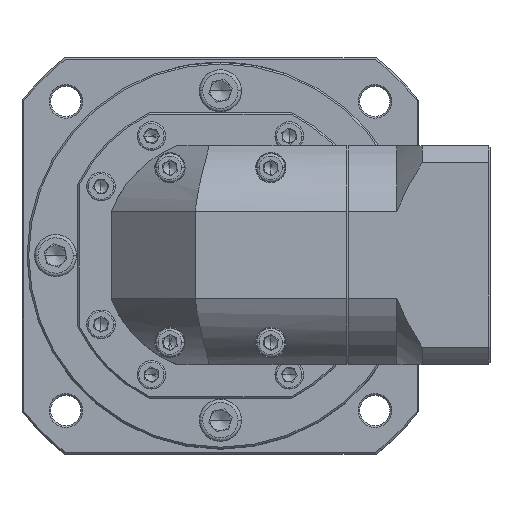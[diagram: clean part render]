
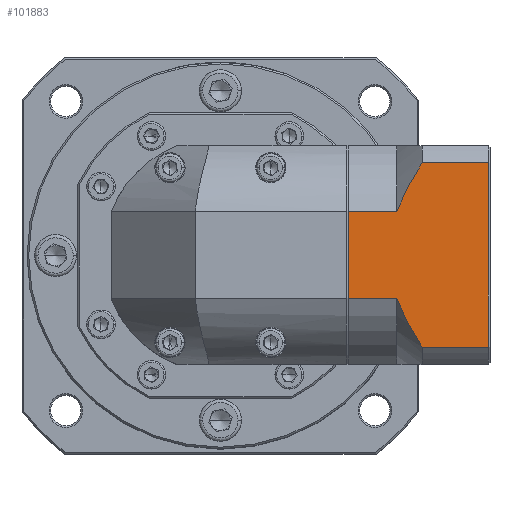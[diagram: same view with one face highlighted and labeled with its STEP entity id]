
A CAD part, top view. The second image highlights one B-rep face of the part: STEP entity #101883.
In plain terms, the highlighted planar face has unit normal (0, 0, 1).
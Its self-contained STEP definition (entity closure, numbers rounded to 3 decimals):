
#883 = VERTEX_POINT ( 'NONE', #20242 ) ;
#3745 = VECTOR ( 'NONE', #32803, 1000. ) ;
#5574 = DIRECTION ( 'NONE',  ( -1., 0., 0. ) ) ;
#5877 = EDGE_CURVE ( 'NONE', #129490, #23683, #75606, .T. ) ;
#7070 = CARTESIAN_POINT ( 'NONE',  ( 127.594, 80.288, 32.511 ) ) ;
#10567 = CARTESIAN_POINT ( 'NONE',  ( 126.935, 117.491, 32.511 ) ) ;
#17886 = CARTESIAN_POINT ( 'NONE',  ( 132.349, 72.125, 32.511 ) ) ;
#18354 = VECTOR ( 'NONE', #5574, 1000. ) ;
#20242 = CARTESIAN_POINT ( 'NONE',  ( 132.349, 126.897, 32.511 ) ) ;
#21464 = CARTESIAN_POINT ( 'NONE',  ( 110.349, 86.521, 32.511 ) ) ;
#22368 = PLANE ( 'NONE',  #63848 ) ;
#23683 = VERTEX_POINT ( 'NONE', #21464 ) ;
#24932 = ORIENTED_EDGE ( 'NONE', *, *, #121660, .T. ) ;
#25105 = CARTESIAN_POINT ( 'NONE',  ( 110.349, 132.011, 32.511 ) ) ;
#26709 = CARTESIAN_POINT ( 'NONE',  ( 124.849, 72.125, 32.511 ) ) ;
#30664 = EDGE_CURVE ( 'NONE', #135520, #91207, #70414, .T. ) ;
#31365 = VERTEX_POINT ( 'NONE', #86637 ) ;
#31378 = CARTESIAN_POINT ( 'NONE',  ( 131.615, 125.759, 32.511 ) ) ;
#32803 = DIRECTION ( 'NONE',  ( 1., 0., 0. ) ) ;
#34318 = VERTEX_POINT ( 'NONE', #37301 ) ;
#35452 = ORIENTED_EDGE ( 'NONE', *, *, #5877, .T. ) ;
#35622 = EDGE_CURVE ( 'NONE', #883, #62562, #56739, .T. ) ;
#37051 = VECTOR ( 'NONE', #86209, 1000. ) ;
#37301 = CARTESIAN_POINT ( 'NONE',  ( 152.049, 126.897, 32.511 ) ) ;
#39826 = CARTESIAN_POINT ( 'NONE',  ( 152.049, 72.125, 32.511 ) ) ;
#42817 = CARTESIAN_POINT ( 'NONE',  ( 132.349, 126.897, 32.511 ) ) ;
#44944 = VECTOR ( 'NONE', #127000, 1000. ) ;
#52039 = CARTESIAN_POINT ( 'NONE',  ( 125.087, 85.879, 32.511 ) ) ;
#52301 = ORIENTED_EDGE ( 'NONE', *, *, #137411, .F. ) ;
#56070 = CARTESIAN_POINT ( 'NONE',  ( 152.549, 132.011, 32.511 ) ) ;
#56739 = B_SPLINE_CURVE_WITH_KNOTS ( 'NONE', 3,
 ( #42817, #31378, #106292, #74589, #105828, #10567, #73653, #64610 ),
 .UNSPECIFIED., .F., .F.,
 ( 4, 2, 2, 4 ),
 ( 0.058, 0.062, 0.066, 0.074 ),
 .UNSPECIFIED. ) ;
#56828 = FACE_OUTER_BOUND ( 'NONE', #62670, .T. ) ;
#61619 = EDGE_CURVE ( 'NONE', #31365, #91207, #123593, .T. ) ;
#62562 = VERTEX_POINT ( 'NONE', #126644 ) ;
#62670 = EDGE_LOOP ( 'NONE', ( #66604, #24932, #91980, #97563, #52301, #35452, #136637, #138374 ) ) ;
#63848 = AXIS2_PLACEMENT_3D ( 'NONE', #56070, #76923, #131429 ) ;
#64610 = CARTESIAN_POINT ( 'NONE',  ( 124.849, 112.501, 32.511 ) ) ;
#66604 = ORIENTED_EDGE ( 'NONE', *, *, #30664, .F. ) ;
#70414 = LINE ( 'NONE', #26709, #134873 ) ;
#70450 = CARTESIAN_POINT ( 'NONE',  ( 124.849, 86.521, 32.511 ) ) ;
#70797 = EDGE_CURVE ( 'NONE', #31365, #23683, #70924, .T. ) ;
#70924 = LINE ( 'NONE', #70450, #18354 ) ;
#71979 = CARTESIAN_POINT ( 'NONE',  ( 125.865, 83.978, 32.511 ) ) ;
#72445 = CARTESIAN_POINT ( 'NONE',  ( 126.989, 81.5, 32.511 ) ) ;
#73653 = CARTESIAN_POINT ( 'NONE',  ( 125.791, 115.039, 32.511 ) ) ;
#74589 = CARTESIAN_POINT ( 'NONE',  ( 129.516, 122.273, 32.511 ) ) ;
#75606 = LINE ( 'NONE', #25105, #133281 ) ;
#76923 = DIRECTION ( 'NONE',  ( 0., 0., -1. ) ) ;
#83369 = CARTESIAN_POINT ( 'NONE',  ( 124.849, 126.897, 32.511 ) ) ;
#86209 = DIRECTION ( 'NONE',  ( 1., 0., 0. ) ) ;
#86637 = CARTESIAN_POINT ( 'NONE',  ( 124.849, 86.521, 32.511 ) ) ;
#86851 = CARTESIAN_POINT ( 'NONE',  ( 124.849, 112.501, 32.511 ) ) ;
#91207 = VERTEX_POINT ( 'NONE', #119149 ) ;
#91980 = ORIENTED_EDGE ( 'NONE', *, *, #103737, .F. ) ;
#92118 = DIRECTION ( 'NONE',  ( -1., 0., 0. ) ) ;
#93261 = CARTESIAN_POINT ( 'NONE',  ( 129.499, 76.707, 32.511 ) ) ;
#94729 = CARTESIAN_POINT ( 'NONE',  ( 152.049, 132.011, 32.511 ) ) ;
#95333 = CARTESIAN_POINT ( 'NONE',  ( 110.349, 112.501, 32.511 ) ) ;
#97563 = ORIENTED_EDGE ( 'NONE', *, *, #35622, .T. ) ;
#98149 = LINE ( 'NONE', #83369, #37051 ) ;
#100933 = DIRECTION ( 'NONE',  ( 0., -1., 0. ) ) ;
#101883 = ADVANCED_FACE ( 'NONE', ( #56828 ), #22368, .F. ) ;
#103737 = EDGE_CURVE ( 'NONE', #883, #34318, #98149, .T. ) ;
#105828 = CARTESIAN_POINT ( 'NONE',  ( 128.845, 121.087, 32.511 ) ) ;
#106292 = CARTESIAN_POINT ( 'NONE',  ( 130.9, 124.608, 32.511 ) ) ;
#119149 = CARTESIAN_POINT ( 'NONE',  ( 132.349, 72.125, 32.511 ) ) ;
#121660 = EDGE_CURVE ( 'NONE', #135520, #34318, #133056, .T. ) ;
#123593 = B_SPLINE_CURVE_WITH_KNOTS ( 'NONE', 3,
 ( #137355, #52039, #136887, #71979, #127431, #72445, #7070, #93261, #126943, #17886 ),
 .UNSPECIFIED., .F., .F.,
 ( 4, 2, 2, 2, 4 ),
 ( 0.101, 0.103, 0.105, 0.109, 0.117 ),
 .UNSPECIFIED. ) ;
#126644 = CARTESIAN_POINT ( 'NONE',  ( 124.849, 112.501, 32.511 ) ) ;
#126943 = CARTESIAN_POINT ( 'NONE',  ( 130.887, 74.393, 32.511 ) ) ;
#127000 = DIRECTION ( 'NONE',  ( 0., 1., 0. ) ) ;
#127431 = CARTESIAN_POINT ( 'NONE',  ( 126.139, 83.354, 32.511 ) ) ;
#129490 = VERTEX_POINT ( 'NONE', #95333 ) ;
#131429 = DIRECTION ( 'NONE',  ( 1., 0., 0. ) ) ;
#133056 = LINE ( 'NONE', #94729, #44944 ) ;
#133281 = VECTOR ( 'NONE', #100933, 1000. ) ;
#134241 = LINE ( 'NONE', #86851, #3745 ) ;
#134873 = VECTOR ( 'NONE', #92118, 1000. ) ;
#135520 = VERTEX_POINT ( 'NONE', #39826 ) ;
#136637 = ORIENTED_EDGE ( 'NONE', *, *, #70797, .F. ) ;
#136887 = CARTESIAN_POINT ( 'NONE',  ( 125.339, 85.24, 32.511 ) ) ;
#137355 = CARTESIAN_POINT ( 'NONE',  ( 124.849, 86.521, 32.511 ) ) ;
#137411 = EDGE_CURVE ( 'NONE', #129490, #62562, #134241, .T. ) ;
#138374 = ORIENTED_EDGE ( 'NONE', *, *, #61619, .T. ) ;
